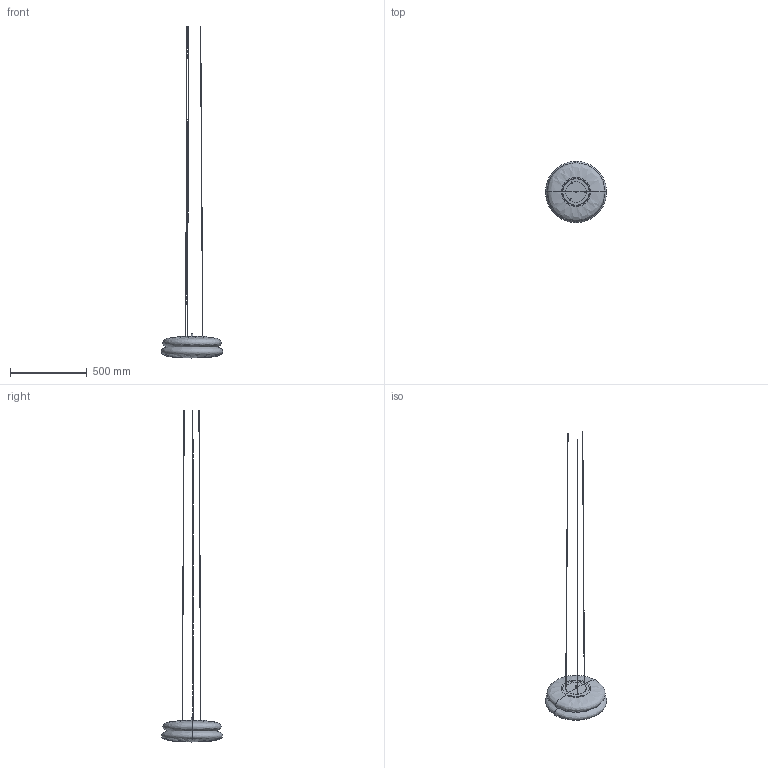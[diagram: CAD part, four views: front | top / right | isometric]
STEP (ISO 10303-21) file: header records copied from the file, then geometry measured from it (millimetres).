
FILE_DESCRIPTION(/* description */ (''),/* implementation_level */ '2;1');
FILE_NAME(/* name */ 'SNOWAN40 P',/* time_stamp */ '2026-08-05T17:13:26+09:00',/* author */ (''),/* organization */ (''),/* preprocessor_version */ 'ST-DEVELOPER v19.2',/* originating_system */ 'Rhino 8.21',/* authorisation */ '');
FILE_SCHEMA (('CONFIG_CONTROL_DESIGN'));
Length unit declared in the file: millimetre
Products named in the file (1): Document
Bounding box: 399.98 x 400 x 2168.2 mm (x, y, z)
Volume: 13286401.7 mm3; surface area: 434751.8 mm2
Topology: 1 solids, 1 shells, 24 faces, 48 edges, 27 vertices
Faces by surface type: plane 10, bspline 8, cylinder 6
Entity records: 2267 total; most frequent: CARTESIAN_POINT 1802, ORIENTED_EDGE 92, DIRECTION 48, EDGE_CURVE 46, AXIS2_PLACEMENT_3D 32, EDGE_LOOP 27, VERTEX_POINT 27, ADVANCED_FACE 24
